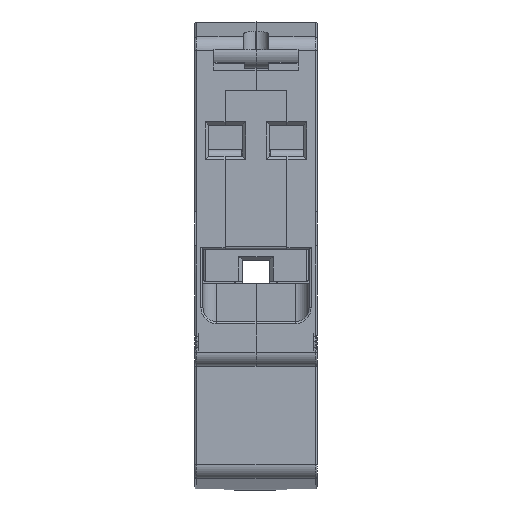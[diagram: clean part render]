
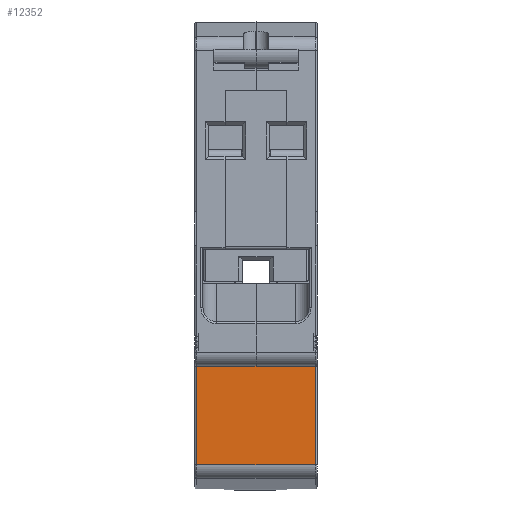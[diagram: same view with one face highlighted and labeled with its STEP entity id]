
A CAD part, left-side view. The second image highlights one B-rep face of the part: STEP entity #12352.
In plain terms, the highlighted planar face has unit normal (-1, 0, 0).
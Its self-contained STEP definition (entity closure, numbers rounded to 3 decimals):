
#59 = CARTESIAN_POINT ( 'NONE',  ( -22.5, 17.5, -58.315 ) ) ;
#2744 = EDGE_CURVE ( 'NONE', #34475, #26113, #7853, .T. ) ;
#4036 = DIRECTION ( 'NONE',  ( 0., 1., 0. ) ) ;
#5297 = DIRECTION ( 'NONE',  ( 0., 0., 1. ) ) ;
#5707 = CARTESIAN_POINT ( 'NONE',  ( -22.5, 8.9, -42.5 ) ) ;
#6158 = FACE_OUTER_BOUND ( 'NONE', #69755, .T. ) ;
#6246 = VERTEX_POINT ( 'NONE', #57940 ) ;
#7853 = LINE ( 'NONE', #29440, #34501 ) ;
#8030 = CARTESIAN_POINT ( 'NONE',  ( -22.5, 8.9, -44. ) ) ;
#10593 = VECTOR ( 'NONE', #5297, 1000. ) ;
#12352 = ADVANCED_FACE ( 'NONE', ( #6158 ), #49343, .F. ) ;
#12838 = DIRECTION ( 'NONE',  ( 0., -1., 0. ) ) ;
#13617 = LINE ( 'NONE', #35906, #20437 ) ;
#13759 = CARTESIAN_POINT ( 'NONE',  ( -22.5, 0.3, -44. ) ) ;
#13986 = DIRECTION ( 'NONE',  ( 0., -1., 0. ) ) ;
#14048 = EDGE_CURVE ( 'NONE', #28307, #17061, #32028, .T. ) ;
#16361 = ORIENTED_EDGE ( 'NONE', *, *, #31721, .T. ) ;
#17061 = VERTEX_POINT ( 'NONE', #42782 ) ;
#17400 = VECTOR ( 'NONE', #12838, 1000. ) ;
#17676 = CARTESIAN_POINT ( 'NONE',  ( -22.5, 14.35, -42.5 ) ) ;
#19409 = DIRECTION ( 'NONE',  ( -1., 0., 0. ) ) ;
#20437 = VECTOR ( 'NONE', #13986, 1000. ) ;
#20528 = DIRECTION ( 'NONE',  ( 0., 0., -1. ) ) ;
#23915 = VECTOR ( 'NONE', #41475, 1000. ) ;
#24329 = VERTEX_POINT ( 'NONE', #59 ) ;
#26113 = VERTEX_POINT ( 'NONE', #13759 ) ;
#28307 = VERTEX_POINT ( 'NONE', #17676 ) ;
#29440 = CARTESIAN_POINT ( 'NONE',  ( -22.5, 0.3, -59.3 ) ) ;
#30281 = ORIENTED_EDGE ( 'NONE', *, *, #2744, .T. ) ;
#31721 = EDGE_CURVE ( 'NONE', #37118, #24329, #46476, .T. ) ;
#32028 = CIRCLE ( 'NONE', #50125, 0.3 ) ;
#32817 = VECTOR ( 'NONE', #4036, 1000. ) ;
#34475 = VERTEX_POINT ( 'NONE', #47761 ) ;
#34501 = VECTOR ( 'NONE', #40426, 1000. ) ;
#34615 = ORIENTED_EDGE ( 'NONE', *, *, #54313, .T. ) ;
#35906 = CARTESIAN_POINT ( 'NONE',  ( -22.5, 14.65, -42.5 ) ) ;
#36277 = EDGE_CURVE ( 'NONE', #28307, #65215, #13617, .T. ) ;
#37118 = VERTEX_POINT ( 'NONE', #40369 ) ;
#37197 = LINE ( 'NONE', #53503, #23915 ) ;
#37647 = AXIS2_PLACEMENT_3D ( 'NONE', #54306, #59280, #59611 ) ;
#37713 = ORIENTED_EDGE ( 'NONE', *, *, #14048, .T. ) ;
#40129 = VECTOR ( 'NONE', #69561, 1000. ) ;
#40236 = EDGE_CURVE ( 'NONE', #6246, #17061, #69030, .T. ) ;
#40369 = CARTESIAN_POINT ( 'NONE',  ( -22.5, 17.5, -44. ) ) ;
#40426 = DIRECTION ( 'NONE',  ( 0., 0., 1. ) ) ;
#41008 = DIRECTION ( 'NONE',  ( 0., 0., -1. ) ) ;
#41259 = ORIENTED_EDGE ( 'NONE', *, *, #40236, .F. ) ;
#41475 = DIRECTION ( 'NONE',  ( 0., -1., 0. ) ) ;
#42247 = LINE ( 'NONE', #47211, #32817 ) ;
#42782 = CARTESIAN_POINT ( 'NONE',  ( -22.5, 14.65, -42.8 ) ) ;
#43329 = EDGE_CURVE ( 'NONE', #24329, #34475, #37197, .T. ) ;
#44008 = ORIENTED_EDGE ( 'NONE', *, *, #45591, .F. ) ;
#45591 = EDGE_CURVE ( 'NONE', #37118, #6246, #61317, .T. ) ;
#45739 = VECTOR ( 'NONE', #20528, 1000. ) ;
#46476 = LINE ( 'NONE', #68087, #45739 ) ;
#47211 = CARTESIAN_POINT ( 'NONE',  ( -22.5, 4.4, -44. ) ) ;
#47761 = CARTESIAN_POINT ( 'NONE',  ( -22.5, 0.3, -58.315 ) ) ;
#47967 = CARTESIAN_POINT ( 'NONE',  ( -22.5, 8.9, -42.5 ) ) ;
#49343 = PLANE ( 'NONE',  #37647 ) ;
#50125 = AXIS2_PLACEMENT_3D ( 'NONE', #53030, #19409, #41008 ) ;
#50630 = EDGE_CURVE ( 'NONE', #26113, #63751, #42247, .T. ) ;
#53030 = CARTESIAN_POINT ( 'NONE',  ( -22.5, 14.35, -42.8 ) ) ;
#53096 = CARTESIAN_POINT ( 'NONE',  ( -22.5, 14.65, -42.5 ) ) ;
#53219 = ORIENTED_EDGE ( 'NONE', *, *, #50630, .T. ) ;
#53267 = LINE ( 'NONE', #47967, #40129 ) ;
#53503 = CARTESIAN_POINT ( 'NONE',  ( -22.5, 0.3, -58.315 ) ) ;
#54306 = CARTESIAN_POINT ( 'NONE',  ( -22.5, 17.952, -59.3 ) ) ;
#54313 = EDGE_CURVE ( 'NONE', #63751, #65215, #53267, .T. ) ;
#54982 = CARTESIAN_POINT ( 'NONE',  ( -22.5, 8.8, -44. ) ) ;
#57940 = CARTESIAN_POINT ( 'NONE',  ( -22.5, 14.65, -44. ) ) ;
#59280 = DIRECTION ( 'NONE',  ( 1., 0., 0. ) ) ;
#59611 = DIRECTION ( 'NONE',  ( 0., 0., 1. ) ) ;
#61317 = LINE ( 'NONE', #54982, #17400 ) ;
#63282 = ORIENTED_EDGE ( 'NONE', *, *, #36277, .F. ) ;
#63751 = VERTEX_POINT ( 'NONE', #8030 ) ;
#63930 = ORIENTED_EDGE ( 'NONE', *, *, #43329, .T. ) ;
#65215 = VERTEX_POINT ( 'NONE', #5707 ) ;
#68087 = CARTESIAN_POINT ( 'NONE',  ( -22.5, 17.5, -59. ) ) ;
#69030 = LINE ( 'NONE', #53096, #10593 ) ;
#69561 = DIRECTION ( 'NONE',  ( 0., 0., 1. ) ) ;
#69755 = EDGE_LOOP ( 'NONE', ( #16361, #63930, #30281, #53219, #34615, #63282, #37713, #41259, #44008 ) ) ;
